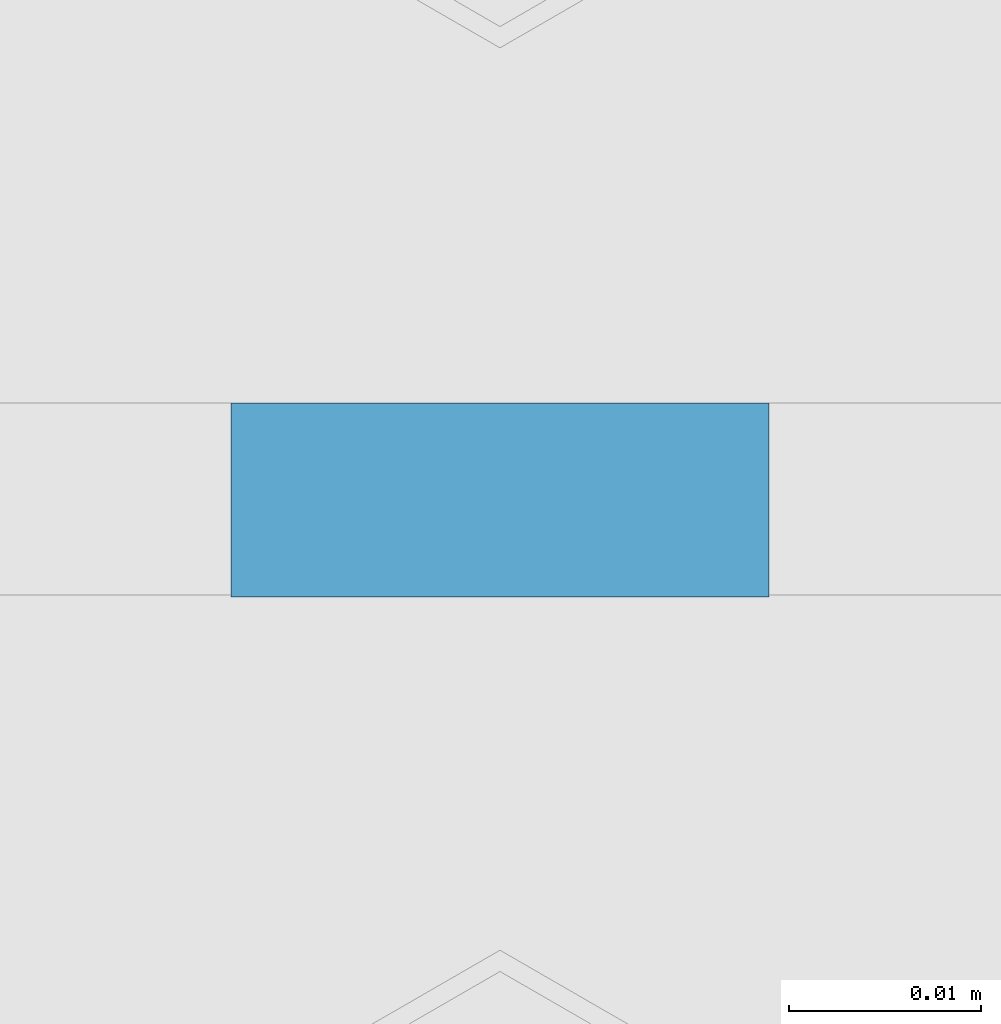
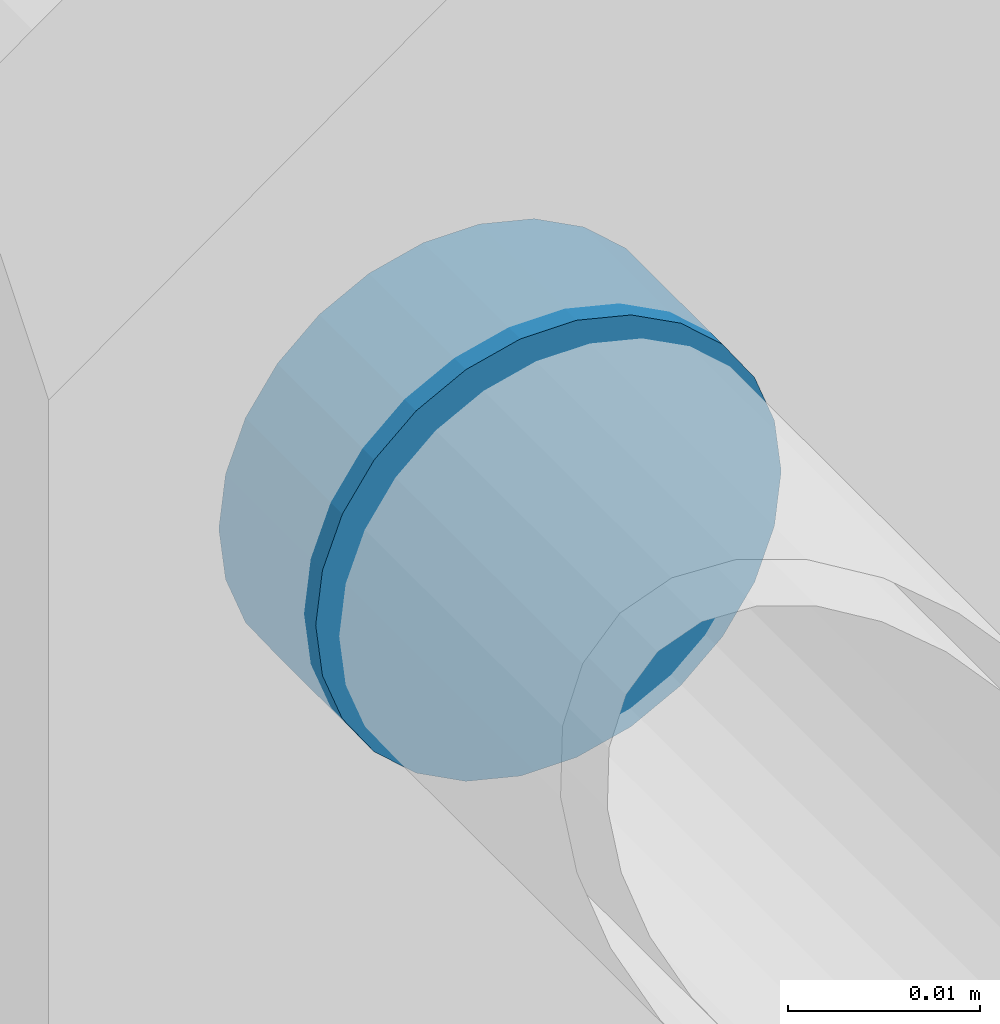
# One storey, part 224 of 362: 1 mechanical fastener.
"""IFC2X3 building model written with IfcOpenShell, lengths in millimetres."""

from ifc_helpers import new_model, si_unit, frame, origin_with_axes, origin_2d_with_axis, place, context, subcontext, project, spatial, circle, extrude, source, transform, mapped, material, type_object, element, save


model = new_model("IFC2X3")

# Units and contexts
model_context = context("Model", 3, precision=1e-05, world=origin_with_axes())
body_context = subcontext(model_context, "Body", "Model", "MODEL_VIEW")
ifc_project = project(units=[si_unit("LENGTHUNIT", "METRE", prefix="MILLI"), si_unit("AREAUNIT", "SQUARE_METRE"), si_unit("VOLUMEUNIT", "CUBIC_METRE"), si_unit("MASSUNIT", "GRAM", prefix="KILO"), si_unit("TIMEUNIT", "SECOND"), si_unit("PLANEANGLEUNIT", "RADIAN"), si_unit("SOLIDANGLEUNIT", "STERADIAN"), si_unit("THERMODYNAMICTEMPERATUREUNIT", "DEGREE_CELSIUS"), si_unit("LUMINOUSINTENSITYUNIT", "LUMEN")], contexts=[model_context])

# Site, building, storey
site_placement = place(None, origin_with_axes())
site = spatial("IfcSite", under=ifc_project, at=site_placement, Name="Undefined", CompositionType="ELEMENT")
building_placement = place(site_placement, origin_with_axes())
building = spatial("IfcBuilding", under=site, at=building_placement, Name="Undefined", CompositionType="ELEMENT")
storey_placement = place(building_placement, origin_with_axes())
storey = spatial("IfcBuildingStorey", under=building, at=storey_placement, Name="Undefined", CompositionType="ELEMENT", Elevation=0.0)

# Mechanical fastener
ifc_material = material(Name="6.8")
mechanical_fastener_type = type_object("IfcMechanicalFastenerType", Name="Bolt assembly")
shared_shape = source(origin_with_axes(), body_context, "Body", "SweptSolid", [
    extrude(circle(Radius=14.0, at=origin_2d_with_axis()), frame((0.0, -5.00000000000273, 0.0), z_axis=(0.0, 1.0, 0.0), x_axis=(1.0, 0.0, 0.0)), (0.0, 0.0, 1.0), 10.1),
])
mechanical_fastener_placement = place(storey_placement, frame((13993.9998838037, 1265.00344774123, 8673.8000065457), z_axis=(0.0, 0.0, 1.0), x_axis=(-1.0, 0.0, 0.0)))
element("IfcMechanicalFastener", 1, at=mechanical_fastener_placement, inside=storey, type_object=mechanical_fastener_type, material=ifc_material, Name="Bolt assembly", NominalDiameter=27.0, NominalLength=10.0, context=body_context, shape_type="MappedRepresentation", body=[
    mapped(shared_shape, transform((0.0, 0.0, 0.0))),
])

save(model, "model.ifc")
